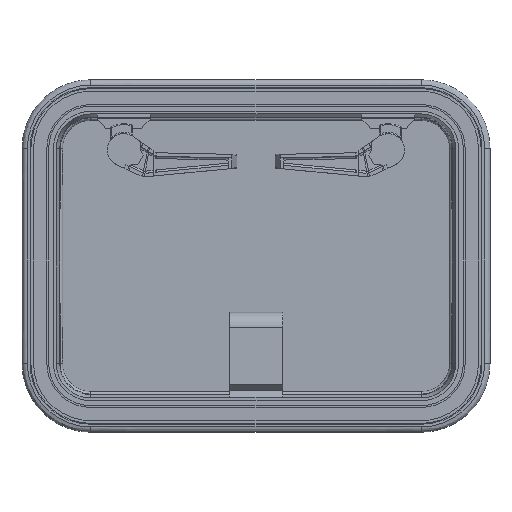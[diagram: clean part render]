
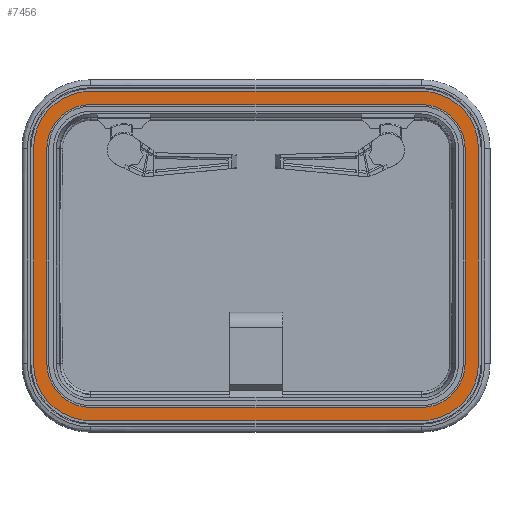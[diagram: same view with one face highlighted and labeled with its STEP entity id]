
A CAD part, top view. The second image highlights one B-rep face of the part: STEP entity #7456.
In plain terms, the highlighted planar face has unit normal (0, 0, 1) as drawn and (0, 0, -1) by its records, which use the part's own axes.
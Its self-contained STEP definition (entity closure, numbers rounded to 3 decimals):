
#1553=DIRECTION('',(1.,0.,0.));
#1554=VECTOR('',#1553,372.);
#1555=CARTESIAN_POINT('',(77.5,28.,-1.5));
#1556=LINE('',#1555,#1554);
#1561=CARTESIAN_POINT('',(77.5,77.5,-1.5));
#1562=DIRECTION('',(0.,0.,1.));
#1563=DIRECTION('',(-1.,0.,0.));
#1564=AXIS2_PLACEMENT_3D('',#1561,#1562,#1563);
#1574=DIRECTION('',(0.,-1.,0.));
#1575=VECTOR('',#1574,242.);
#1576=CARTESIAN_POINT('',(28.,319.5,-1.5));
#1577=LINE('',#1576,#1575);
#1582=CARTESIAN_POINT('',(77.5,319.5,-1.5));
#1583=DIRECTION('',(0.,0.,1.));
#1584=DIRECTION('',(0.,1.,0.));
#1585=AXIS2_PLACEMENT_3D('',#1582,#1583,#1584);
#1591=DIRECTION('',(-1.,0.,0.));
#1592=VECTOR('',#1591,372.);
#1593=CARTESIAN_POINT('',(449.5,369.,-1.5));
#1594=LINE('',#1593,#1592);
#1599=CARTESIAN_POINT('',(449.5,319.5,-1.5));
#1600=DIRECTION('',(0.,0.,1.));
#1601=DIRECTION('',(1.,0.,0.));
#1602=AXIS2_PLACEMENT_3D('',#1599,#1600,#1601);
#1608=DIRECTION('',(0.,1.,0.));
#1609=VECTOR('',#1608,242.);
#1610=CARTESIAN_POINT('',(499.,77.5,-1.5));
#1611=LINE('',#1610,#1609);
#1616=CARTESIAN_POINT('',(449.5,77.5,-1.5));
#1617=DIRECTION('',(0.,0.,1.));
#1618=DIRECTION('',(0.,-1.,0.));
#1619=AXIS2_PLACEMENT_3D('',#1616,#1617,#1618);
#1621=DIRECTION('',(1.,0.,0.));
#1622=VECTOR('',#1621,372.);
#1623=CARTESIAN_POINT('',(77.5,13.,-1.5));
#1624=LINE('',#1623,#1622);
#1625=CARTESIAN_POINT('',(449.5,77.5,-1.5));
#1626=DIRECTION('',(0.,0.,1.));
#1627=DIRECTION('',(0.,-1.,0.));
#1628=AXIS2_PLACEMENT_3D('',#1625,#1626,#1627);
#1630=DIRECTION('',(0.,1.,0.));
#1631=VECTOR('',#1630,242.);
#1632=CARTESIAN_POINT('',(514.,77.5,-1.5));
#1633=LINE('',#1632,#1631);
#1634=CARTESIAN_POINT('',(449.5,319.5,-1.5));
#1635=DIRECTION('',(0.,0.,1.));
#1636=DIRECTION('',(1.,0.,0.));
#1637=AXIS2_PLACEMENT_3D('',#1634,#1635,#1636);
#1639=DIRECTION('',(-1.,0.,0.));
#1640=VECTOR('',#1639,372.);
#1641=CARTESIAN_POINT('',(449.5,384.,-1.5));
#1642=LINE('',#1641,#1640);
#1643=CARTESIAN_POINT('',(77.5,319.5,-1.5));
#1644=DIRECTION('',(0.,0.,1.));
#1645=DIRECTION('',(0.,1.,0.));
#1646=AXIS2_PLACEMENT_3D('',#1643,#1644,#1645);
#1648=DIRECTION('',(0.,-1.,0.));
#1649=VECTOR('',#1648,242.);
#1650=CARTESIAN_POINT('',(13.,319.5,-1.5));
#1651=LINE('',#1650,#1649);
#1652=CARTESIAN_POINT('',(77.5,77.5,-1.5));
#1653=DIRECTION('',(0.,0.,1.));
#1654=DIRECTION('',(-1.,0.,0.));
#1655=AXIS2_PLACEMENT_3D('',#1652,#1653,#1654);
#2037=CARTESIAN_POINT('',(77.5,13.,-1.5));
#2039=VERTEX_POINT('',#2037);
#2040=CARTESIAN_POINT('',(77.5,28.,-1.5));
#2042=VERTEX_POINT('',#2040);
#2078=CARTESIAN_POINT('',(449.5,13.,-1.5));
#2080=VERTEX_POINT('',#2078);
#2081=CARTESIAN_POINT('',(449.5,28.,-1.5));
#2083=VERTEX_POINT('',#2081);
#2119=CARTESIAN_POINT('',(514.,77.5,-1.5));
#2121=VERTEX_POINT('',#2119);
#2122=CARTESIAN_POINT('',(499.,77.5,-1.5));
#2124=VERTEX_POINT('',#2122);
#2160=CARTESIAN_POINT('',(514.,319.5,-1.5));
#2162=VERTEX_POINT('',#2160);
#2163=CARTESIAN_POINT('',(499.,319.5,-1.5));
#2165=VERTEX_POINT('',#2163);
#2201=CARTESIAN_POINT('',(449.5,384.,-1.5));
#2203=VERTEX_POINT('',#2201);
#2204=CARTESIAN_POINT('',(449.5,369.,-1.5));
#2206=VERTEX_POINT('',#2204);
#2242=CARTESIAN_POINT('',(77.5,384.,-1.5));
#2244=VERTEX_POINT('',#2242);
#2245=CARTESIAN_POINT('',(77.5,369.,-1.5));
#2247=VERTEX_POINT('',#2245);
#2283=CARTESIAN_POINT('',(13.,319.5,-1.5));
#2285=VERTEX_POINT('',#2283);
#2286=CARTESIAN_POINT('',(28.,319.5,-1.5));
#2288=VERTEX_POINT('',#2286);
#2324=CARTESIAN_POINT('',(13.,77.5,-1.5));
#2326=VERTEX_POINT('',#2324);
#2327=CARTESIAN_POINT('',(28.,77.5,-1.5));
#2329=VERTEX_POINT('',#2327);
#7423=CARTESIAN_POINT('',(263.5,20.5,-1.5));
#7424=DIRECTION('',(0.,0.,1.));
#7425=DIRECTION('',(0.,1.,0.));
#7426=AXIS2_PLACEMENT_3D('',#7423,#7424,#7425);
#7427=PLANE('',#7426);
#7429=ORIENTED_EDGE('',*,*,#7428,.T.);
#7431=ORIENTED_EDGE('',*,*,#7430,.T.);
#7433=ORIENTED_EDGE('',*,*,#7432,.T.);
#7435=ORIENTED_EDGE('',*,*,#7434,.T.);
#7437=ORIENTED_EDGE('',*,*,#7436,.T.);
#7439=ORIENTED_EDGE('',*,*,#7438,.T.);
#7441=ORIENTED_EDGE('',*,*,#7440,.T.);
#7443=ORIENTED_EDGE('',*,*,#7442,.T.);
#7444=EDGE_LOOP('',(#7429,#7431,#7433,#7435,#7437,#7439,#7441,#7443));
#7445=FACE_OUTER_BOUND('',#7444,.F.);
#7446=ORIENTED_EDGE('',*,*,#7333,.F.);
#7447=ORIENTED_EDGE('',*,*,#7347,.F.);
#7448=ORIENTED_EDGE('',*,*,#7361,.F.);
#7449=ORIENTED_EDGE('',*,*,#7375,.F.);
#7450=ORIENTED_EDGE('',*,*,#7389,.F.);
#7451=ORIENTED_EDGE('',*,*,#7403,.F.);
#7452=ORIENTED_EDGE('',*,*,#7416,.F.);
#7453=ORIENTED_EDGE('',*,*,#7318,.F.);
#7454=EDGE_LOOP('',(#7446,#7447,#7448,#7449,#7450,#7451,#7452,#7453));
#7455=FACE_BOUND('',#7454,.F.);
#7456=ADVANCED_FACE('',(#7445,#7455),#7427,.F.);
#1565=CIRCLE('',#1564,49.5);
#1586=CIRCLE('',#1585,49.5);
#1603=CIRCLE('',#1602,49.5);
#1620=CIRCLE('',#1619,49.5);
#1629=CIRCLE('',#1628,64.5);
#1638=CIRCLE('',#1637,64.5);
#1647=CIRCLE('',#1646,64.5);
#1656=CIRCLE('',#1655,64.5);
#7318=EDGE_CURVE('',#2042,#2083,#1556,.T.);
#7333=EDGE_CURVE('',#2329,#2042,#1565,.T.);
#7347=EDGE_CURVE('',#2288,#2329,#1577,.T.);
#7361=EDGE_CURVE('',#2247,#2288,#1586,.T.);
#7375=EDGE_CURVE('',#2206,#2247,#1594,.T.);
#7389=EDGE_CURVE('',#2165,#2206,#1603,.T.);
#7403=EDGE_CURVE('',#2124,#2165,#1611,.T.);
#7416=EDGE_CURVE('',#2083,#2124,#1620,.T.);
#7428=EDGE_CURVE('',#2039,#2080,#1624,.T.);
#7430=EDGE_CURVE('',#2080,#2121,#1629,.T.);
#7432=EDGE_CURVE('',#2121,#2162,#1633,.T.);
#7434=EDGE_CURVE('',#2162,#2203,#1638,.T.);
#7436=EDGE_CURVE('',#2203,#2244,#1642,.T.);
#7438=EDGE_CURVE('',#2244,#2285,#1647,.T.);
#7440=EDGE_CURVE('',#2285,#2326,#1651,.T.);
#7442=EDGE_CURVE('',#2326,#2039,#1656,.T.);
